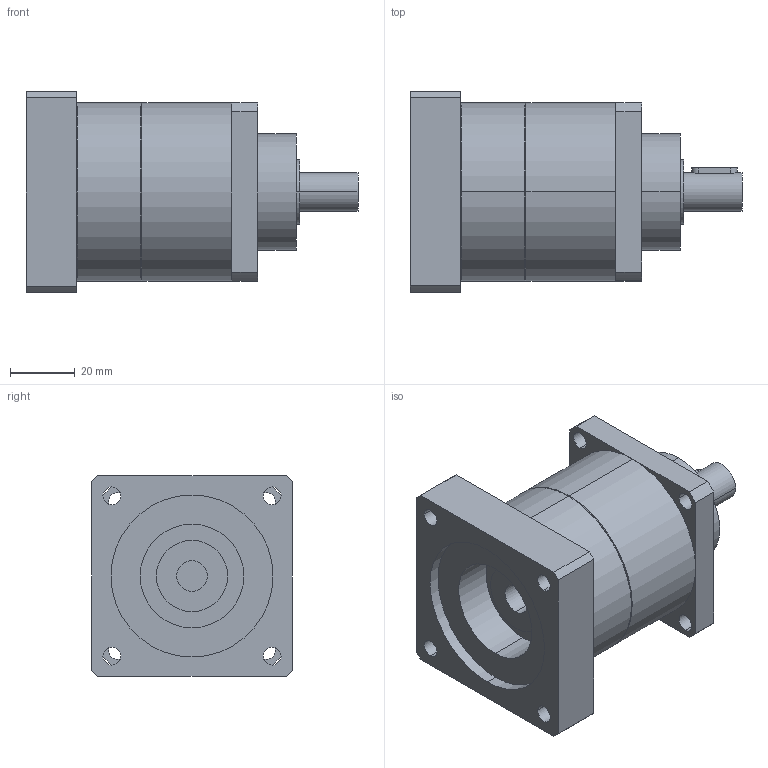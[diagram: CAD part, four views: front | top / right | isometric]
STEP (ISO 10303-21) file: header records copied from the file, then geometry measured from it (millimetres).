
FILE_DESCRIPTION(('CoCreate Modeling STEP Export'),'2;1');
FILE_NAME('GPT55_ig-3-4-5-7-10_12_B5A_9.52_P23.stp','2014-08-25T14:35:10',(''),(''),'CoCreate Modeling STEP processor for AP214 (Solid Model)','CoCreate Modeling 16.00C 25-Feb-2009 (C) Parametric Technology GmbH','');
FILE_SCHEMA(('AUTOMOTIVE_DESIGN { 1 0 10303 214 1 1 1 1 }'));
Length unit declared in the file: millimetre
Products named in the file (2): GPT55_ig-3-4-5-7-10_12_B5A_9.52_P23
Assembly tree (1 placements, depth 2):
  GPT55_ig-3-4-5-7-10_12_B5A_9.52_P23
    GPT55_ig-3-4-5-7-10_12_B5A_9.52_P23
Bounding box: 102.5 x 62 x 62 mm (x, y, z)
Volume: 192847.2 mm3; surface area: 29041 mm2
Topology: 1 solids, 1 shells, 77 faces, 204 edges, 139 vertices
Faces by surface type: cylinder 46, plane 27, cone 4
Entity records: 2515 total; most frequent: CARTESIAN_POINT 710, ORIENTED_EDGE 408, DIRECTION 318, EDGE_CURVE 204, VERTEX_POINT 139, AXIS2_PLACEMENT_3D 117, EDGE_LOOP 103, VECTOR 84
